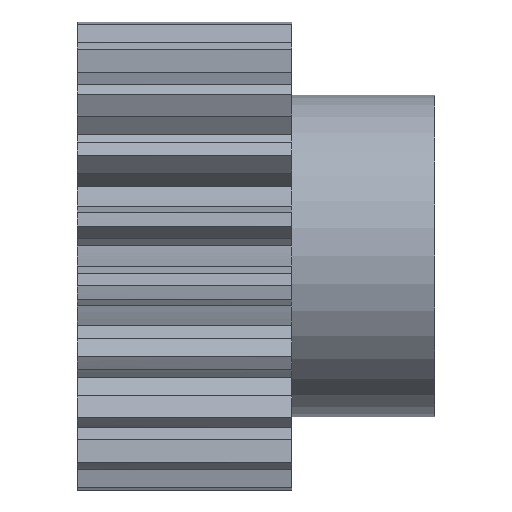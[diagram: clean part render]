
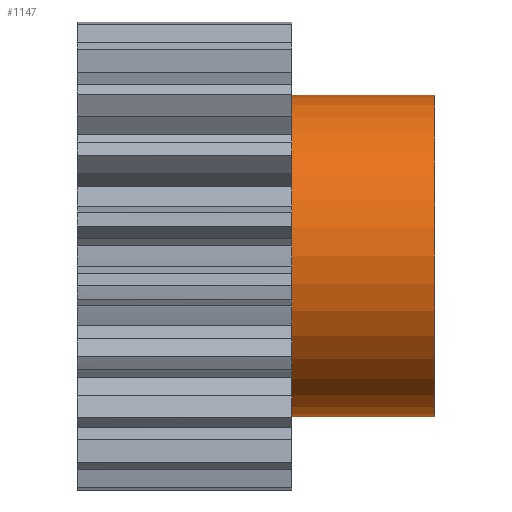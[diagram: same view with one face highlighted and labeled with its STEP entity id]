
A CAD part, front view. The second image highlights one B-rep face of the part: STEP entity #1147.
In plain terms, the highlighted cylindrical face has radius 22.5 mm (diameter 45 mm), a partial arc.
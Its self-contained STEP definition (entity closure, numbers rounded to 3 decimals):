
#1147 = ADVANCED_FACE ( 'NONE', ( #1971 ), #1972, .T. ) ;
#1151 = ORIENTED_EDGE ( 'NONE', *, *, #3680, .T. ) ;
#1203 = EDGE_CURVE ( 'NONE', #1581, #1591, #2133, .T. ) ;
#1208 = VERTEX_POINT ( 'NONE', #2124 ) ;
#1229 = VERTEX_POINT ( 'NONE', #2154 ) ;
#1581 = VERTEX_POINT ( 'NONE', #2802 ) ;
#1585 = EDGE_CURVE ( 'NONE', #1229, #1208, #2800, .T. ) ;
#1591 = VERTEX_POINT ( 'NONE', #2789 ) ;
#1971 = FACE_OUTER_BOUND ( 'NONE', #4372, .T. ) ;
#1972 = CYLINDRICAL_SURFACE ( 'NONE', #1987, 22.5 ) ;
#1977 = CARTESIAN_POINT ( 'NONE',  ( 15., 0., 0. ) ) ;
#1978 = DIRECTION ( 'NONE',  ( -1., 0., 0. ) ) ;
#1987 = AXIS2_PLACEMENT_3D ( 'NONE', #1977, #1978, #2027 ) ;
#2027 = DIRECTION ( 'NONE',  ( 0., 0., 1. ) ) ;
#2124 = CARTESIAN_POINT ( 'NONE',  ( 15., 0., 22.5 ) ) ;
#2127 = DIRECTION ( 'NONE',  ( -1., 0., 0. ) ) ;
#2128 = VECTOR ( 'NONE', #2127, 1000. ) ;
#2133 = LINE ( 'NONE', #2145, #2128 ) ;
#2145 = CARTESIAN_POINT ( 'NONE',  ( 15., 0., -22.5 ) ) ;
#2154 = CARTESIAN_POINT ( 'NONE',  ( 35., 0., 22.5 ) ) ;
#2789 = CARTESIAN_POINT ( 'NONE',  ( 15., 0., -22.5 ) ) ;
#2791 = DIRECTION ( 'NONE',  ( -1., 0., 0. ) ) ;
#2792 = VECTOR ( 'NONE', #2791, 1000. ) ;
#2793 = CARTESIAN_POINT ( 'NONE',  ( 15., 0., 22.5 ) ) ;
#2800 = LINE ( 'NONE', #2793, #2792 ) ;
#2802 = CARTESIAN_POINT ( 'NONE',  ( 35., 0., -22.5 ) ) ;
#3062 = CARTESIAN_POINT ( 'NONE',  ( 15., 0., 0. ) ) ;
#3070 = CIRCLE ( 'NONE', #3105, 22.5 ) ;
#3103 = DIRECTION ( 'NONE',  ( 0., 0., 1. ) ) ;
#3104 = DIRECTION ( 'NONE',  ( 1., 0., 0. ) ) ;
#3105 = AXIS2_PLACEMENT_3D ( 'NONE', #3062, #3104, #3103 ) ;
#3204 = DIRECTION ( 'NONE',  ( 0., 0., 1. ) ) ;
#3205 = DIRECTION ( 'NONE',  ( -1., 0., 0. ) ) ;
#3206 = AXIS2_PLACEMENT_3D ( 'NONE', #3213, #3205, #3204 ) ;
#3213 = CARTESIAN_POINT ( 'NONE',  ( 35., 0., 0. ) ) ;
#3221 = CIRCLE ( 'NONE', #3206, 22.5 ) ;
#3568 = EDGE_CURVE ( 'NONE', #1208, #1591, #3070, .T. ) ;
#3680 = EDGE_CURVE ( 'NONE', #1581, #1229, #3221, .T. ) ;
#3867 = ORIENTED_EDGE ( 'NONE', *, *, #3568, .T. ) ;
#3931 = ORIENTED_EDGE ( 'NONE', *, *, #1203, .F. ) ;
#4366 = ORIENTED_EDGE ( 'NONE', *, *, #1585, .T. ) ;
#4372 = EDGE_LOOP ( 'NONE', ( #3931, #1151, #4366, #3867 ) ) ;
